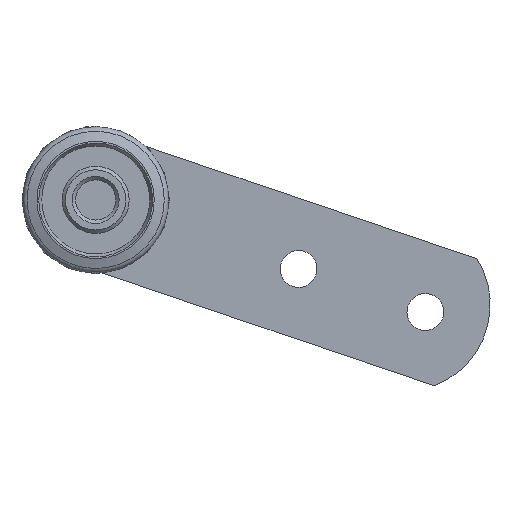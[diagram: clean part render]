
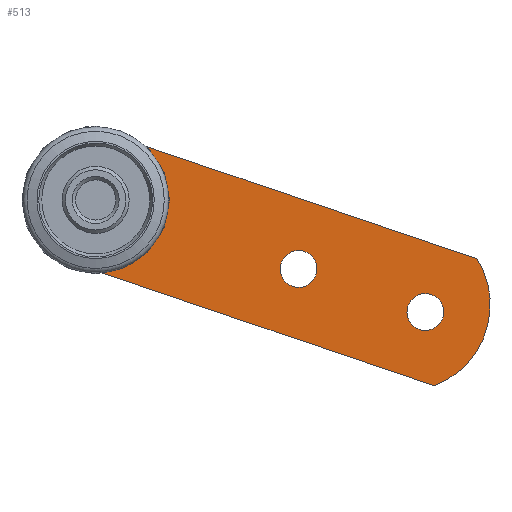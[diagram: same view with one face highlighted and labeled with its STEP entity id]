
A CAD part, left-side view. The second image highlights one B-rep face of the part: STEP entity #513.
In plain terms, the highlighted planar face has unit normal (-1, 0, 0) as drawn and (0, 0, -1) by its records, which use the part's own axes.
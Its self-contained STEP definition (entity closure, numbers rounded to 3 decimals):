
#47=LINE('',#929,#55);
#50=LINE('',#938,#58);
#55=VECTOR('',#742,61.613);
#58=VECTOR('',#753,61.613);
#115=FACE_BOUND('',#229,.T.);
#116=FACE_BOUND('',#230,.T.);
#117=FACE_BOUND('',#231,.T.);
#164=FACE_OUTER_BOUND('',#228,.T.);
#228=EDGE_LOOP('',(#451,#452,#453,#454));
#229=EDGE_LOOP('',(#455));
#230=EDGE_LOOP('',(#456));
#231=EDGE_LOOP('',(#457));
#266=CIRCLE('',#575,3.05);
#268=CIRCLE('',#578,2.75);
#270=CIRCLE('',#581,2.75);
#272=CIRCLE('',#584,13.);
#274=CIRCLE('',#588,13.);
#305=VERTEX_POINT('',#903);
#307=VERTEX_POINT('',#908);
#309=VERTEX_POINT('',#913);
#312=VERTEX_POINT('',#919);
#313=VERTEX_POINT('',#921);
#315=VERTEX_POINT('',#927);
#317=VERTEX_POINT('',#933);
#349=EDGE_CURVE('',#305,#305,#266,.T.);
#351=EDGE_CURVE('',#307,#307,#268,.T.);
#353=EDGE_CURVE('',#309,#309,#270,.T.);
#356=EDGE_CURVE('',#313,#312,#272,.T.);
#360=EDGE_CURVE('',#312,#315,#47,.T.);
#363=EDGE_CURVE('',#315,#317,#274,.T.);
#365=EDGE_CURVE('',#317,#313,#50,.T.);
#451=ORIENTED_EDGE('',*,*,#365,.T.);
#452=ORIENTED_EDGE('',*,*,#356,.T.);
#453=ORIENTED_EDGE('',*,*,#360,.T.);
#454=ORIENTED_EDGE('',*,*,#363,.T.);
#455=ORIENTED_EDGE('',*,*,#349,.T.);
#456=ORIENTED_EDGE('',*,*,#351,.T.);
#457=ORIENTED_EDGE('',*,*,#353,.T.);
#478=PLANE('',#591);
#513=ADVANCED_FACE('',(#164,#115,#116,#117),#478,.F.);
#575=AXIS2_PLACEMENT_3D('',#904,#716,#717);
#578=AXIS2_PLACEMENT_3D('',#909,#722,#723);
#581=AXIS2_PLACEMENT_3D('',#914,#728,#729);
#584=AXIS2_PLACEMENT_3D('',#922,#735,#736);
#588=AXIS2_PLACEMENT_3D('',#935,#748,#749);
#591=AXIS2_PLACEMENT_3D('',#940,#756,#757);
#716=DIRECTION('center_axis',(0.,0.,1.));
#717=DIRECTION('ref_axis',(-1.,0.,0.));
#722=DIRECTION('center_axis',(0.,0.,1.));
#723=DIRECTION('ref_axis',(-1.,0.,0.));
#728=DIRECTION('center_axis',(0.,0.,1.));
#729=DIRECTION('ref_axis',(-1.,0.,0.));
#735=DIRECTION('center_axis',(0.,0.,-1.));
#736=DIRECTION('ref_axis',(-0.639,0.769,0.));
#742=DIRECTION('',(-1.,0.,0.));
#748=DIRECTION('center_axis',(0.,0.,-1.));
#749=DIRECTION('ref_axis',(0.639,-0.769,0.));
#753=DIRECTION('',(1.,0.,0.));
#756=DIRECTION('center_axis',(0.,0.,1.));
#757=DIRECTION('ref_axis',(1.,0.,0.));
#903=CARTESIAN_POINT('',(-20.45,0.,0.));
#904=CARTESIAN_POINT('Origin',(-23.5,0.,0.));
#908=CARTESIAN_POINT('',(31.25,0.,0.));
#909=CARTESIAN_POINT('Origin',(28.5,0.,0.));
#913=CARTESIAN_POINT('',(11.25,0.,0.));
#914=CARTESIAN_POINT('Origin',(8.5,0.,0.));
#919=CARTESIAN_POINT('',(33.307,-10.,0.));
#921=CARTESIAN_POINT('',(33.307,10.,0.));
#922=CARTESIAN_POINT('Origin',(25.,0.,0.));
#927=CARTESIAN_POINT('',(-28.307,-10.,0.));
#929=CARTESIAN_POINT('',(33.307,-10.,0.));
#933=CARTESIAN_POINT('',(-28.307,10.,0.));
#935=CARTESIAN_POINT('Origin',(-20.,0.,0.));
#938=CARTESIAN_POINT('',(-28.307,10.,0.));
#940=CARTESIAN_POINT('Origin',(2.5,0.,0.));
